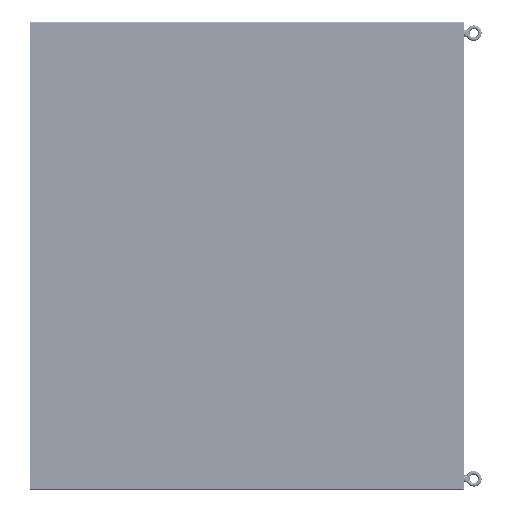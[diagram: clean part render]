
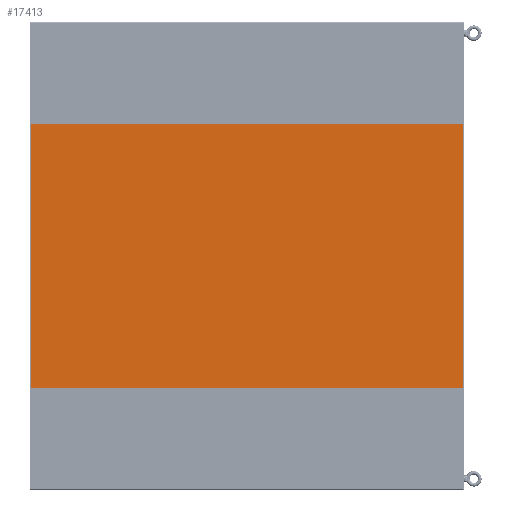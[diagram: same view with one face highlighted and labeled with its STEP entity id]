
A CAD part, left-side view. The second image highlights one B-rep face of the part: STEP entity #17413.
In plain terms, the highlighted planar face has unit normal (-1, 0, 0) as drawn and (0, 0, -1) by its records, which use the part's own axes.
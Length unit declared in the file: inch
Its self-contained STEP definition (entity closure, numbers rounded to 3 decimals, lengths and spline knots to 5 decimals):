
#17170=CARTESIAN_POINT('',(21.8125,-71.7295,-0.104));
#17171=DIRECTION('',(0.,0.,-1.));
#17172=DIRECTION('',(1.,0.,0.));
#17173=AXIS2_PLACEMENT_3D('',#17170,#17171,#17172);
#17178=DIRECTION('',(0.,1.,0.));
#17179=VECTOR('',#17178,71.667);
#17180=CARTESIAN_POINT('',(21.875,-71.7295,-0.104));
#17181=LINE('',#17180,#17179);
#17185=CARTESIAN_POINT('',(21.8125,-0.0625,-0.104));
#17186=DIRECTION('',(0.,0.,-1.));
#17187=DIRECTION('',(0.,1.,0.));
#17188=AXIS2_PLACEMENT_3D('',#17185,#17186,#17187);
#17193=DIRECTION('',(-1.,0.,0.));
#17194=VECTOR('',#17193,43.625);
#17195=CARTESIAN_POINT('',(21.8125,0.,-0.104));
#17196=LINE('',#17195,#17194);
#17200=CARTESIAN_POINT('',(-21.8125,-0.0625,-0.104));
#17201=DIRECTION('',(0.,0.,-1.));
#17202=DIRECTION('',(-1.,0.,0.));
#17203=AXIS2_PLACEMENT_3D('',#17200,#17201,#17202);
#17208=DIRECTION('',(0.,-1.,0.));
#17209=VECTOR('',#17208,71.667);
#17210=CARTESIAN_POINT('',(-21.875,-0.0625,-0.104));
#17211=LINE('',#17210,#17209);
#17215=CARTESIAN_POINT('',(-21.8125,-71.7295,-0.104));
#17216=DIRECTION('',(0.,0.,-1.));
#17217=DIRECTION('',(0.,-1.,0.));
#17218=AXIS2_PLACEMENT_3D('',#17215,#17216,#17217);
#17223=DIRECTION('',(1.,0.,0.));
#17224=VECTOR('',#17223,43.625);
#17225=CARTESIAN_POINT('',(-21.8125,-71.792,-0.104));
#17226=LINE('',#17225,#17224);
#17234=CARTESIAN_POINT('',(21.875,-71.7295,-0.104));
#17235=VERTEX_POINT('',#17234);
#17236=CARTESIAN_POINT('',(21.8125,-71.792,-0.104));
#17237=VERTEX_POINT('',#17236);
#17242=CARTESIAN_POINT('',(21.8125,0.,-0.104));
#17243=VERTEX_POINT('',#17242);
#17244=CARTESIAN_POINT('',(21.875,-0.0625,-0.104));
#17245=VERTEX_POINT('',#17244);
#17250=CARTESIAN_POINT('',(-21.8125,-71.792,-0.104));
#17251=VERTEX_POINT('',#17250);
#17252=CARTESIAN_POINT('',(-21.8125,0.,-0.104));
#17253=VERTEX_POINT('',#17252);
#17256=CARTESIAN_POINT('',(-21.875,-71.7295,-0.104));
#17257=VERTEX_POINT('',#17256);
#17260=CARTESIAN_POINT('',(-21.875,-0.0625,-0.104));
#17261=VERTEX_POINT('',#17260);
#17398=CARTESIAN_POINT('',(0.,0.,-0.104));
#17399=DIRECTION('',(0.,0.,1.));
#17400=DIRECTION('',(1.,0.,0.));
#17401=AXIS2_PLACEMENT_3D('',#17398,#17399,#17400);
#17402=PLANE('',#17401);
#17403=ORIENTED_EDGE('',*,*,#17294,.F.);
#17404=ORIENTED_EDGE('',*,*,#17310,.T.);
#17405=ORIENTED_EDGE('',*,*,#17323,.F.);
#17406=ORIENTED_EDGE('',*,*,#17338,.T.);
#17407=ORIENTED_EDGE('',*,*,#17351,.F.);
#17408=ORIENTED_EDGE('',*,*,#17364,.T.);
#17409=ORIENTED_EDGE('',*,*,#17379,.F.);
#17410=ORIENTED_EDGE('',*,*,#17391,.T.);
#17411=EDGE_LOOP('',(#17403,#17404,#17405,#17406,#17407,#17408,#17409,#17410));
#17412=FACE_OUTER_BOUND('',#17411,.F.);
#17174=CIRCLE('',#17173,0.0625);
#17189=CIRCLE('',#17188,0.0625);
#17204=CIRCLE('',#17203,0.0625);
#17219=CIRCLE('',#17218,0.0625);
#17294=EDGE_CURVE('',#17235,#17237,#17174,.T.);
#17310=EDGE_CURVE('',#17235,#17245,#17181,.T.);
#17323=EDGE_CURVE('',#17243,#17245,#17189,.T.);
#17338=EDGE_CURVE('',#17243,#17253,#17196,.T.);
#17351=EDGE_CURVE('',#17261,#17253,#17204,.T.);
#17364=EDGE_CURVE('',#17261,#17257,#17211,.T.);
#17379=EDGE_CURVE('',#17251,#17257,#17219,.T.);
#17391=EDGE_CURVE('',#17251,#17237,#17226,.T.);
#17413=ADVANCED_FACE('',(#17412),#17402,.F.);
